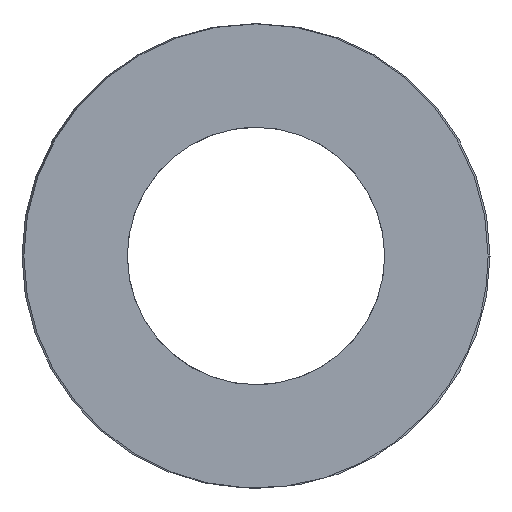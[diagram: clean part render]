
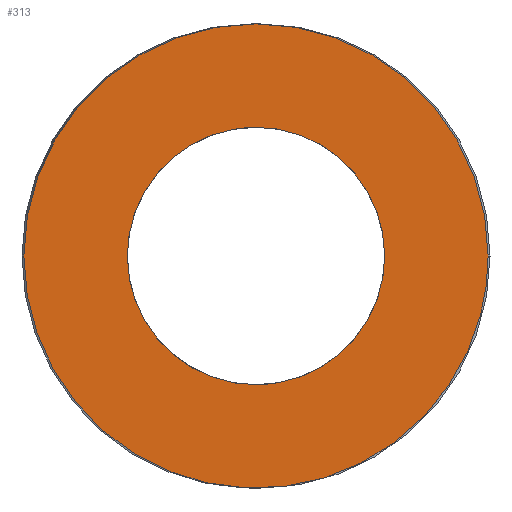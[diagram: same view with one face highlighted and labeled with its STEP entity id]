
A CAD part, left-side view. The second image highlights one B-rep face of the part: STEP entity #313.
In plain terms, the highlighted planar face has unit normal (-1, 0, 0).
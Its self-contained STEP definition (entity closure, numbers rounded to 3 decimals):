
#63=CARTESIAN_POINT('Vertex',(0.,9.2,0.)) ;
#89=CARTESIAN_POINT('Vertex',(0.,-9.2,0.)) ;
#93=CARTESIAN_POINT('Control Point',(0.,9.2,0.)) ;
#94=CARTESIAN_POINT('Control Point',(0.,9.2,-1.445)) ;
#95=CARTESIAN_POINT('Control Point',(0.,8.916,-2.89)) ;
#96=CARTESIAN_POINT('Control Point',(0.,8.348,-4.261)) ;
#97=CARTESIAN_POINT('Control Point',(0.,6.706,-6.706)) ;
#98=CARTESIAN_POINT('Control Point',(0.,4.261,-8.348)) ;
#99=CARTESIAN_POINT('Control Point',(0.,2.89,-8.916)) ;
#100=CARTESIAN_POINT('Control Point',(0.,0.,-9.484)) ;
#101=CARTESIAN_POINT('Control Point',(0.,-2.89,-8.916)) ;
#102=CARTESIAN_POINT('Control Point',(0.,-4.261,-8.348)) ;
#103=CARTESIAN_POINT('Control Point',(0.,-6.706,-6.706)) ;
#104=CARTESIAN_POINT('Control Point',(0.,-8.348,-4.261)) ;
#105=CARTESIAN_POINT('Control Point',(0.,-8.916,-2.89)) ;
#106=CARTESIAN_POINT('Control Point',(0.,-9.2,-1.445)) ;
#107=CARTESIAN_POINT('Control Point',(0.,-9.2,0.)) ;
#121=CARTESIAN_POINT('Axis2P3D Location',(0.,0.,0.)) ;
#250=CARTESIAN_POINT('Axis2P3D Location',(0.,4.6,0.)) ;
#260=CARTESIAN_POINT('Control Point',(0.,0.,-5.1)) ;
#261=CARTESIAN_POINT('Control Point',(0.,0.553,-5.1)) ;
#262=CARTESIAN_POINT('Control Point',(0.,1.106,-5.025)) ;
#263=CARTESIAN_POINT('Control Point',(0.,1.646,-4.875)) ;
#264=CARTESIAN_POINT('Control Point',(0.,2.671,-4.432)) ;
#265=CARTESIAN_POINT('Control Point',(0.,3.541,-3.733)) ;
#266=CARTESIAN_POINT('Control Point',(0.,3.926,-3.326)) ;
#267=CARTESIAN_POINT('Control Point',(0.,4.575,-2.418)) ;
#268=CARTESIAN_POINT('Control Point',(0.,4.96,-1.37)) ;
#269=CARTESIAN_POINT('Control Point',(0.,5.079,-0.822)) ;
#270=CARTESIAN_POINT('Control Point',(0.,5.167,0.291)) ;
#271=CARTESIAN_POINT('Control Point',(0.,4.955,1.387)) ;
#272=CARTESIAN_POINT('Control Point',(0.,4.775,1.917)) ;
#273=CARTESIAN_POINT('Control Point',(0.,4.275,2.916)) ;
#274=CARTESIAN_POINT('Control Point',(0.,3.528,3.745)) ;
#275=CARTESIAN_POINT('Control Point',(0.,3.1,4.106)) ;
#276=CARTESIAN_POINT('Control Point',(0.,2.255,4.642)) ;
#277=CARTESIAN_POINT('Control Point',(0.,1.309,4.959)) ;
#278=CARTESIAN_POINT('Control Point',(0.,0.877,5.053)) ;
#279=CARTESIAN_POINT('Control Point',(0.,0.439,5.1)) ;
#280=CARTESIAN_POINT('Control Point',(0.,0.,5.1)) ;
#281=CARTESIAN_POINT('Vertex',(0.,0.,-5.1)) ;
#283=CARTESIAN_POINT('Vertex',(0.,0.,5.1)) ;
#287=CARTESIAN_POINT('Control Point',(0.,0.,5.1)) ;
#288=CARTESIAN_POINT('Control Point',(0.,-0.553,5.1)) ;
#289=CARTESIAN_POINT('Control Point',(0.,-1.106,5.025)) ;
#290=CARTESIAN_POINT('Control Point',(0.,-1.646,4.875)) ;
#291=CARTESIAN_POINT('Control Point',(0.,-2.671,4.432)) ;
#292=CARTESIAN_POINT('Control Point',(0.,-3.541,3.733)) ;
#293=CARTESIAN_POINT('Control Point',(0.,-3.926,3.326)) ;
#294=CARTESIAN_POINT('Control Point',(0.,-4.575,2.418)) ;
#295=CARTESIAN_POINT('Control Point',(0.,-4.96,1.37)) ;
#296=CARTESIAN_POINT('Control Point',(0.,-5.079,0.822)) ;
#297=CARTESIAN_POINT('Control Point',(0.,-5.167,-0.291)) ;
#298=CARTESIAN_POINT('Control Point',(0.,-4.955,-1.387)) ;
#299=CARTESIAN_POINT('Control Point',(0.,-4.775,-1.917)) ;
#300=CARTESIAN_POINT('Control Point',(0.,-4.275,-2.916)) ;
#301=CARTESIAN_POINT('Control Point',(0.,-3.528,-3.745)) ;
#302=CARTESIAN_POINT('Control Point',(0.,-3.1,-4.106)) ;
#303=CARTESIAN_POINT('Control Point',(0.,-2.255,-4.642)) ;
#304=CARTESIAN_POINT('Control Point',(0.,-1.309,-4.959)) ;
#305=CARTESIAN_POINT('Control Point',(0.,-0.877,-5.053)) ;
#306=CARTESIAN_POINT('Control Point',(0.,-0.439,-5.1)) ;
#307=CARTESIAN_POINT('Control Point',(0.,0.,-5.1)) ;
#122=DIRECTION('Axis2P3D Direction',(1.,-0.,0.)) ;
#251=DIRECTION('Axis2P3D Direction',(-1.,0.,0.)) ;
#252=DIRECTION('Axis2P3D XDirection',(0.,1.,0.)) ;
#123=AXIS2_PLACEMENT_3D('Circle Axis2P3D',#121,#122,$) ;
#253=AXIS2_PLACEMENT_3D('Plane Axis2P3D',#250,#251,#252) ;
#256=ORIENTED_EDGE('',*,*,#108,.T.) ;
#257=ORIENTED_EDGE('',*,*,#125,.T.) ;
#310=ORIENTED_EDGE('',*,*,#285,.T.) ;
#311=ORIENTED_EDGE('',*,*,#308,.T.) ;
#312=FACE_BOUND('',#309,.T.) ;
#313=ADVANCED_FACE('392-B20-152',(#258,#312),#254,.T.) ;
#92=B_SPLINE_CURVE_WITH_KNOTS('',5,(#93,#94,#95,#96,#97,#98,#99,#100,#101,#102,#103,#104,#105,#106,#107),.UNSPECIFIED.,.F.,.U.,(6,3,3,3,6),(-14.451,-7.226,0.,7.226,14.451),.UNSPECIFIED.) ;
#259=B_SPLINE_CURVE_WITH_KNOTS('',5,(#260,#261,#262,#263,#264,#265,#266,#267,#268,#269,#270,#271,#272,#273,#274,#275,#276,#277,#278,#279,#280),.UNSPECIFIED.,.F.,.U.,(6,3,3,3,3,3,6),(0.,3.911,7.823,11.734,15.646,19.557,22.658),.UNSPECIFIED.) ;
#286=B_SPLINE_CURVE_WITH_KNOTS('',5,(#287,#288,#289,#290,#291,#292,#293,#294,#295,#296,#297,#298,#299,#300,#301,#302,#303,#304,#305,#306,#307),.UNSPECIFIED.,.F.,.U.,(6,3,3,3,3,3,6),(0.,3.911,7.823,11.734,15.646,19.557,22.658),.UNSPECIFIED.) ;
#124=CIRCLE('generated circle',#123,9.2) ;
#108=EDGE_CURVE('',#64,#90,#92,.T.) ;
#125=EDGE_CURVE('',#90,#64,#124,.F.) ;
#285=EDGE_CURVE('',#282,#284,#259,.T.) ;
#308=EDGE_CURVE('',#284,#282,#286,.T.) ;
#255=EDGE_LOOP('',(#256,#257)) ;
#309=EDGE_LOOP('',(#310,#311)) ;
#258=FACE_OUTER_BOUND('',#255,.T.) ;
#254=PLANE('Plane',#253) ;
#64=VERTEX_POINT('',#63) ;
#90=VERTEX_POINT('',#89) ;
#282=VERTEX_POINT('',#281) ;
#284=VERTEX_POINT('',#283) ;
